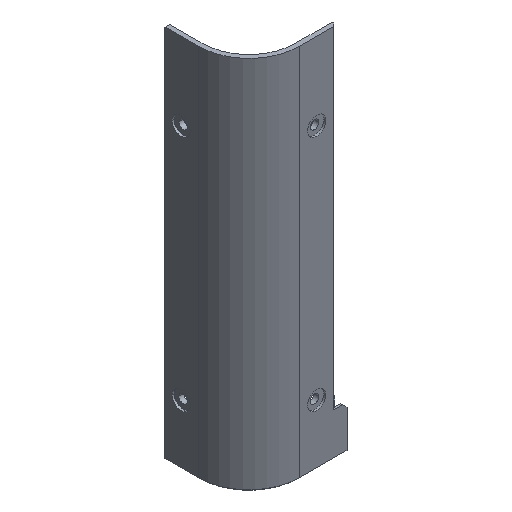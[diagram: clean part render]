
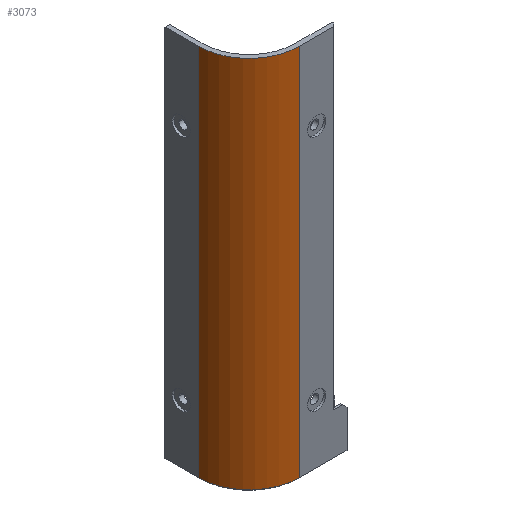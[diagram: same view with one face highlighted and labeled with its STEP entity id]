
A CAD part, isometric view. The second image highlights one B-rep face of the part: STEP entity #3073.
In plain terms, the highlighted cylindrical face has radius 25 mm (diameter 50 mm), a partial arc.
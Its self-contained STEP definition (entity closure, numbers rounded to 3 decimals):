
#68 = CARTESIAN_POINT ( 'NONE',  ( 0., 0., -0.5 ) ) ;
#81 = DIRECTION ( 'NONE',  ( -1., 0., 0. ) ) ;
#82 = ORIENTED_EDGE ( 'NONE', *, *, #3003, .F. ) ;
#306 = VERTEX_POINT ( 'NONE', #1450 ) ;
#591 = DIRECTION ( 'NONE',  ( 0., 0., -1. ) ) ;
#609 = VECTOR ( 'NONE', #2263, 1000. ) ;
#622 = DIRECTION ( 'NONE',  ( 1., 0., 0. ) ) ;
#637 = EDGE_LOOP ( 'NONE', ( #1280, #3141, #2123, #82 ) ) ;
#666 = CARTESIAN_POINT ( 'NONE',  ( 0., -25., 368.5 ) ) ;
#744 = CIRCLE ( 'NONE', #1120, 25. ) ;
#767 = VERTEX_POINT ( 'NONE', #1474 ) ;
#1120 = AXIS2_PLACEMENT_3D ( 'NONE', #3245, #2980, #622 ) ;
#1140 = CARTESIAN_POINT ( 'NONE',  ( -25., 0., 368.5 ) ) ;
#1204 = CYLINDRICAL_SURFACE ( 'NONE', #2920, 25. ) ;
#1232 = CARTESIAN_POINT ( 'NONE',  ( -25., 0., 184.25 ) ) ;
#1280 = ORIENTED_EDGE ( 'NONE', *, *, #2267, .T. ) ;
#1386 = VERTEX_POINT ( 'NONE', #2583 ) ;
#1450 = CARTESIAN_POINT ( 'NONE',  ( -25., 0., -0.5 ) ) ;
#1457 = CIRCLE ( 'NONE', #2803, 25. ) ;
#1474 = CARTESIAN_POINT ( 'NONE',  ( 0., -25., -0.5 ) ) ;
#1595 = VECTOR ( 'NONE', #3178, 1000. ) ;
#1728 = FACE_OUTER_BOUND ( 'NONE', #637, .T. ) ;
#1870 = LINE ( 'NONE', #1140, #1595 ) ;
#2123 = ORIENTED_EDGE ( 'NONE', *, *, #3203, .F. ) ;
#2144 = DIRECTION ( 'NONE',  ( 0., 0., 1. ) ) ;
#2165 = CARTESIAN_POINT ( 'NONE',  ( 0., 0., 368.5 ) ) ;
#2263 = DIRECTION ( 'NONE',  ( 0., 0., -1. ) ) ;
#2267 = EDGE_CURVE ( 'NONE', #3258, #306, #1870, .T. ) ;
#2412 = DIRECTION ( 'NONE',  ( 1., 0., 0. ) ) ;
#2583 = CARTESIAN_POINT ( 'NONE',  ( 0., -25., 184.25 ) ) ;
#2803 = AXIS2_PLACEMENT_3D ( 'NONE', #68, #2144, #2412 ) ;
#2901 = EDGE_CURVE ( 'NONE', #306, #767, #1457, .T. ) ;
#2920 = AXIS2_PLACEMENT_3D ( 'NONE', #2165, #591, #81 ) ;
#2980 = DIRECTION ( 'NONE',  ( 0., 0., 1. ) ) ;
#2990 = LINE ( 'NONE', #666, #609 ) ;
#3003 = EDGE_CURVE ( 'NONE', #3258, #1386, #744, .T. ) ;
#3073 = ADVANCED_FACE ( 'NONE', ( #1728 ), #1204, .T. ) ;
#3141 = ORIENTED_EDGE ( 'NONE', *, *, #2901, .T. ) ;
#3178 = DIRECTION ( 'NONE',  ( 0., 0., -1. ) ) ;
#3203 = EDGE_CURVE ( 'NONE', #1386, #767, #2990, .T. ) ;
#3245 = CARTESIAN_POINT ( 'NONE',  ( 0., 0., 184.25 ) ) ;
#3258 = VERTEX_POINT ( 'NONE', #1232 ) ;
